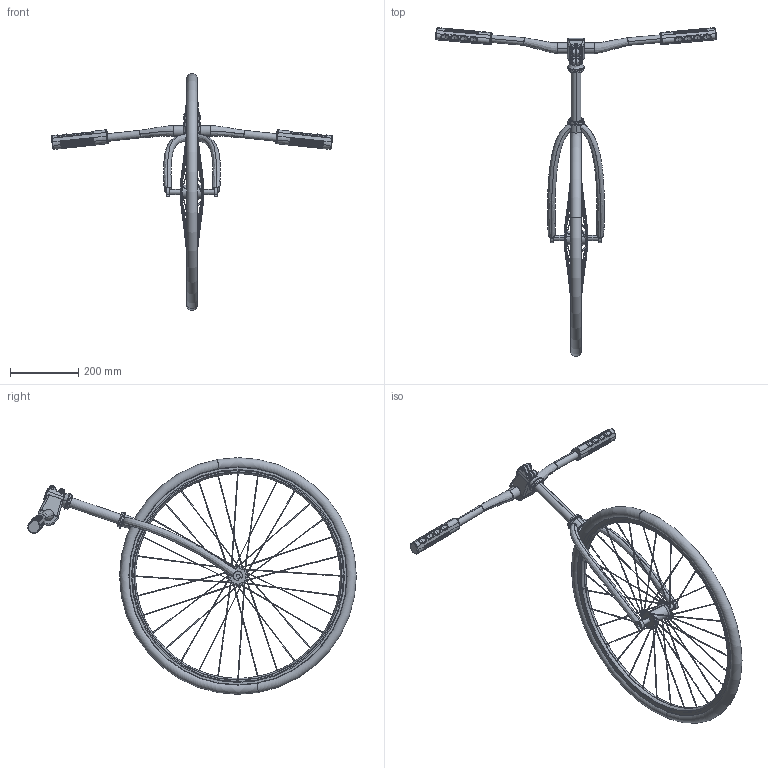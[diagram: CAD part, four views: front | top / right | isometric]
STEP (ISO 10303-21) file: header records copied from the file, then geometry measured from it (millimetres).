
FILE_DESCRIPTION (( 'STEP AP203' ), '1' );
FILE_NAME ('Front Fork Assembly.STEP', '2021-02-16T02:32:22', ( '' ), ( '' ), 'SwSTEP 2.0', 'SolidWorks 2021', '' );
FILE_SCHEMA (( 'CONFIG_CONTROL_DESIGN' ));
Length unit declared in the file: millimetre
Products named in the file (13): Top Cover; Lower Cup; Headset Cap; Handlebar; socket countersunk head screw_am_B18.3.5M - 6 x 1.0 x 35 Socket FCHS  -- 35N; socket head cap screw_am_B18.3.1M - 5 x 0.8 x 10 Hex SHCS -- 10NHX; Handlebar Grip; socket head cap screw_am_B18.3.1M - 8 x 1.25 x 25 Hex SHCS -- 25NHX; Chunky Stem_Predeterminado; Front Fork Assembly; Lower Bearing; 2019 Fork in Progress; Front Wheel
Assembly tree (19 placements, depth 2):
  Front Fork Assembly
    2019 Fork in Progress
    Front Wheel
    Lower Cup  x2
    Lower Bearing  x2
    Top Cover
    Chunky Stem_Predeterminado
    socket head cap screw_am_B18.3.1M - 8 x 1.25 x 25 Hex SHCS -- 25NHX  x2
    socket head cap screw_am_B18.3.1M - 5 x 0.8 x 10 Hex SHCS -- 10NHX  x4
    Headset Cap
    socket countersunk head screw_am_B18.3.5M - 6 x 1.0 x 35 Socket FCHS  -- 35N
    Handlebar Grip  x2
    Handlebar
Bounding box: 823.59 x 962.93 x 693.57 mm (x, y, z)
Volume: 1362503.1 mm3; surface area: 1032317.9 mm2
Topology: 20 solids, 32 shells, 1633 faces, 3673 edges, 2091 vertices
Faces by surface type: bspline 578, cylinder 484, plane 423, cone 82, torus 66
Entity records: 53173 total; most frequent: CARTESIAN_POINT 29535, ORIENTED_EDGE 4954, DIRECTION 4194, EDGE_CURVE 2477, AXIS2_PLACEMENT_3D 1774, VERTEX_POINT 1463, EDGE_LOOP 1172, CIRCLE 1073
